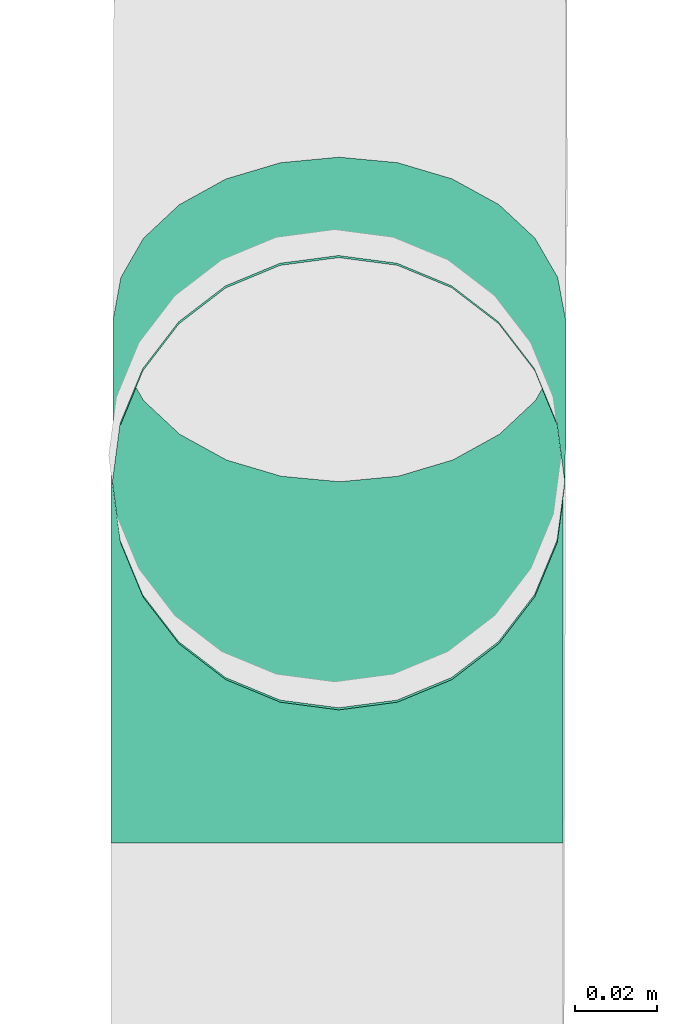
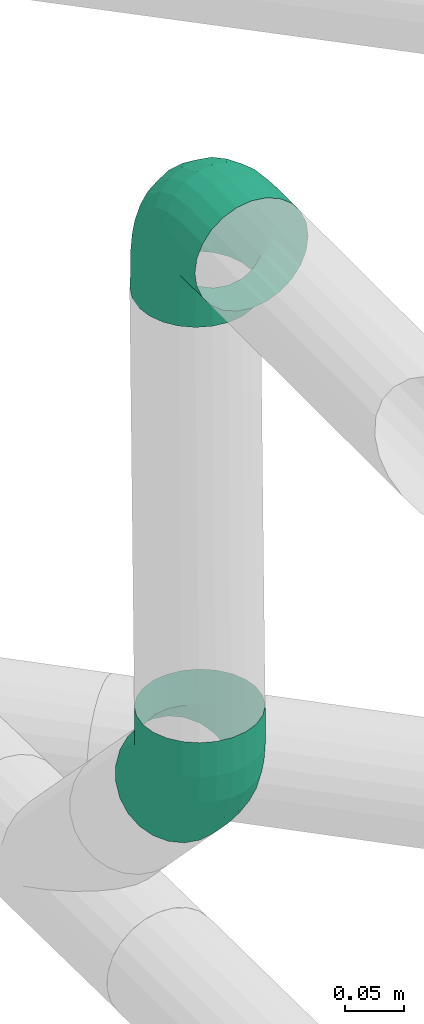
# One storey, part 173 of 374: 2 flow fittings.
"""IFC2X3 building model written with IfcOpenShell, lengths in metres."""

from ifc_helpers import new_model, si_unit, direction, origin, place, context, subcontext, project, spatial, open_shell, surface_model, source, transform, mapped, element, save


model = new_model("IFC2X3")

# Units and contexts
model_context = context("Model", 3, precision=1e-05, world=origin(), true_north=direction((-0.4480736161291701, 0.8939966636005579)))
body_context = subcontext(model_context, "Body", "Model", "MODEL_VIEW")
ifc_project = project(units=[si_unit("LENGTHUNIT", "METRE"), si_unit("AREAUNIT", "SQUARE_METRE"), si_unit("VOLUMEUNIT", "CUBIC_METRE"), si_unit("PLANEANGLEUNIT", "RADIAN"), si_unit("THERMODYNAMICTEMPERATUREUNIT", "KELVIN"), si_unit("MASSUNIT", "GRAM", prefix="KILO"), si_unit("TIMEUNIT", "SECOND")], contexts=[model_context])

# Site, building, storey
site_placement = place(None, origin())
site = spatial("IfcSite", under=ifc_project, at=site_placement, Name="Site 1", CompositionType="ELEMENT")
building_placement = place(site_placement, origin())
building = spatial("IfcBuilding", under=site, at=building_placement, Name="Undefined", CompositionType="ELEMENT")
storey_placement = place(building_placement, origin())
storey = spatial("IfcBuildingStorey", under=building, at=storey_placement, Name="Rez de chauss\x8ee", CompositionType="ELEMENT", Elevation=0.0)

# Flow fittings
shared_shape_1 = source(origin(), body_context, "Body", "SurfaceModel", [
    surface_model("IfcFaceBasedSurfaceModel", [(0.0, 0.014357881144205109, -3.552713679e-15), (0.0, 0.0, 0.0), (0.03869999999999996, -7.105427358e-15, 7.105427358e-15), (0.03869999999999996, 0.014357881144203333, 7.105427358e-15), (0.0, -0.01386864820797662, -0.0037160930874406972), (0.03869999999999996, -0.013868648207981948, -0.003716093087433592), (0.0, -0.026302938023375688, -0.010895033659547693), (0.03869999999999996, -0.02630293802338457, -0.010895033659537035), (0.0, -0.03645549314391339, -0.021047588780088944), (0.03869999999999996, -0.03645549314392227, -0.02104758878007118), (0.0, -0.04363443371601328, -0.033481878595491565), (0.03869999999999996, -0.043634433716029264, -0.033481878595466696), (0.0, -0.04735052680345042, -0.04735052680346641), (0.03869999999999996, -0.047350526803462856, -0.04735052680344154), (0.0, -0.04735052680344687, -0.06170840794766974), (0.03869999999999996, -0.047350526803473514, -0.061708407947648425), (0.0, -0.04363443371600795, -0.07557705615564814), (0.03869999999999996, -0.043634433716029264, -0.07557705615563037), (0.0, -0.03645549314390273, -0.08801134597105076), (0.03869999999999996, -0.03645549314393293, -0.088011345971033), (0.0, -0.026302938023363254, -0.0981639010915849), (0.03869999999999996, -0.02630293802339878, -0.09816390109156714), (0.0, -0.013868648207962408, -0.1053428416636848), (0.03869999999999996, -0.013868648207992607, -0.10534284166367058), (0.0, 1.5987211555e-14, -0.10905893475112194), (0.03869999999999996, -1.4210854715e-14, -0.10905893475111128), (0.0, 0.014357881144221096, -0.10905893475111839), (0.03869999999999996, 0.01435788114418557, -0.10905893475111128), (0.0, 0.028226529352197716, -0.10534284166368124), (0.03869999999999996, 0.028226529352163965, -0.10534284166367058), (0.0, 0.040660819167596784, -0.0981639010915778), (0.03869999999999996, 0.040660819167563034, -0.09816390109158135), (0.0, 0.05081337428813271, -0.08801134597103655), (0.03869999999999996, 0.050813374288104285, -0.088011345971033), (0.0, 0.05799231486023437, -0.07557705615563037), (0.03869999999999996, 0.05799231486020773, -0.07557705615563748), (0.0, 0.06170840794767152, -0.06170840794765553), (0.03869999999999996, 0.06170840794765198, -0.061708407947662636), (0.0, 0.061708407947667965, -0.0473505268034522), (0.03869999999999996, 0.06170840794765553, -0.047350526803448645), (0.0, 0.05799231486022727, -0.033481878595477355), (0.03869999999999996, 0.05799231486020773, -0.03348187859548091), (0.0, 0.050813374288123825, -0.021047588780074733), (0.03869999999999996, 0.05081337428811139, -0.02104758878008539), (0.0, 0.04066081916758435, -0.010895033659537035), (0.03869999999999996, 0.040660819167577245, -0.01089503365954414), (0.0, 0.028226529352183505, -0.0037160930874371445), (0.03869999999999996, 0.028226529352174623, -0.0037160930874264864), (0.06642387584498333, -0.04376678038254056, -0.06218021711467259), (0.06690439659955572, -0.043704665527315, -0.04783051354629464), (0.09229412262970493, -0.033255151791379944, -0.06356409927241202), (0.09322303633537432, -0.03301084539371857, -0.04923838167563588), (0.11458104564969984, -0.01651845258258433, -0.06576752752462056), (0.11589624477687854, -0.015984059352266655, -0.051480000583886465), (0.1317945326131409, 0.0053242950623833, -0.06864317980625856), (0.13340808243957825, 0.006237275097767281, -0.05440549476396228), (0.1427836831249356, 0.03081267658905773, -0.07199878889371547), (0.14458770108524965, 0.03216743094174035, -0.05781926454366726), (0.14681375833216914, 0.05824252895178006, -0.07560999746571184), (0.14868762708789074, 0.060072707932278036, -0.06149306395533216), (0.06501506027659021, -0.040232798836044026, -0.07602488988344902), (0.08957068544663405, -0.030255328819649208, -0.07733844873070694), (0.11072507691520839, -0.014369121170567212, -0.07942990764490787), (0.12706384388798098, 0.0063636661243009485, -0.08215943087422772), (0.1374945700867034, 0.03055683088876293, -0.08534452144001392), (0.14131985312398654, 0.05659280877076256, -0.08877222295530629), (0.06277395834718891, -0.03334355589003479, -0.0884210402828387), (0.08523832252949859, -0.02421580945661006, -0.08962273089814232), (0.1045911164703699, -0.009682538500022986, -0.09153607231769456), (0.11953840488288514, 0.009284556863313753, -0.0940331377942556), (0.1290808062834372, 0.03141732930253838, -0.09694697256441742), (0.13258031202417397, 0.05523597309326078, -0.10008275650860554), (0.05985329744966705, -0.023568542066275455, -0.09852389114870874), (0.07959227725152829, -0.015548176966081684, -0.0995797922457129), (0.09659718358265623, -0.002778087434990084, -0.10126100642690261), (0.1097310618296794, 0.01388791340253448, -0.10345512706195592), (0.11811577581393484, 0.0333355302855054, -0.10601545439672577), (0.12119072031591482, 0.054264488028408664, -0.10877080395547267), (0.05645211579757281, -0.011573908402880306, -0.10564494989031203), (0.07301731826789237, -0.004843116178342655, -0.10653107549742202), (0.08728805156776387, 0.005873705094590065, -0.10794197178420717), (0.09831016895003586, 0.019860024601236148, -0.10978330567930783), (0.10534672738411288, 0.036180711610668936, -0.11193196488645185), (0.10792725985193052, 0.053744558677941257, -0.114244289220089), (0.052802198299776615, 0.0018229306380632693, -0.10929892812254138), (0.06596151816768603, 0.007169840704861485, -0.11000286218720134), (0.0772981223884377, 0.015683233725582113, -0.11112367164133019), (0.08605404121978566, 0.026793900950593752, -0.1125864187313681), (0.09164385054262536, 0.03975897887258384, -0.11429330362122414), (0.09369381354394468, 0.05371161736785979, -0.11613020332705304), (0.049152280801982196, 0.01570900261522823, -0.10923681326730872), (0.05890571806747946, 0.019672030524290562, -0.10975855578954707), (0.06730819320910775, 0.025981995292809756, -0.11058927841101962), (0.07379791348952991, 0.034217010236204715, -0.11167343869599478), (0.07794097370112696, 0.04382647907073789, -0.11293854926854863), (0.07946036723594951, 0.0541679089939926, -0.11430002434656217), (0.04575109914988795, 0.02913799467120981, -0.10546283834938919), (0.05233075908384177, 0.03181144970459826, -0.10581480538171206), (0.057999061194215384, 0.036068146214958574, -0.10637521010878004), (0.06237702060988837, 0.041623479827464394, -0.10710658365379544), (0.06517192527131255, 0.04810601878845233, -0.10796002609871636), (0.0661969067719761, 0.05508233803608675, -0.10887847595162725), (0.0428304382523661, 0.04119474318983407, -0.09823419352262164), (0.04668471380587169, 0.04276081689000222, -0.09844037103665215), (0.05000512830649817, 0.0452543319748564, -0.0987686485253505), (0.05256967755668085, 0.04850857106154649, -0.09919707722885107), (0.054206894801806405, 0.052305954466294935, -0.09969701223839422), (0.05480731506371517, 0.05639258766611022, -0.1002350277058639), (0.04058933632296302, 0.051057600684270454, -0.08804349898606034), (0.04235235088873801, 0.05177395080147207, -0.08813780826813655), (0.043871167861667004, 0.05291452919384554, -0.08828796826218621), (0.04504423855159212, 0.05440307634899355, -0.08848393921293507), (0.04579313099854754, 0.056140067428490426, -0.08871261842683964), (0.04606777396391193, 0.058009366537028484, -0.08895871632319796), (0.03918052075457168, 0.05805442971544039, -0.07558523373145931), (0.039628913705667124, 0.05823662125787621, -0.07560921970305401), (0.040015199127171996, 0.0585267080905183, -0.07564741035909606), (0.040313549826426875, 0.05890529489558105, -0.07569725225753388), (0.040504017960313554, 0.05934706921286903, -0.07575541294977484), (0.04057386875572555, 0.05982249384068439, -0.07581800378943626), (0.03918052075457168, 0.06177052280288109, -0.04735870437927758), (0.039628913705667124, 0.06195271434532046, -0.047382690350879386), (0.040015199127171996, 0.0622428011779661, -0.047420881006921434), (0.040313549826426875, 0.06262138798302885, -0.04747072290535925), (0.040504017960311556, 0.06306316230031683, -0.04752888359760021), (0.040573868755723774, 0.06353858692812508, -0.04759147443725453), (0.0405893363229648, 0.058236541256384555, -0.033514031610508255), (0.04235235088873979, 0.05895289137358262, -0.03360834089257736), (0.043871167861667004, 0.06009346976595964, -0.033758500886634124), (0.04504423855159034, 0.06158201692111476, -0.03395447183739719), (0.04579313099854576, 0.06331900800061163, -0.03418315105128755), (0.04606777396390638, 0.06518830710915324, -0.03442924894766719), (0.0428304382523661, 0.05134729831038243, -0.021117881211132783), (0.04668471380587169, 0.052913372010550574, -0.021324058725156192), (0.05000512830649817, 0.055406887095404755, -0.02165233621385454), (0.05256967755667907, 0.05866112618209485, -0.02208076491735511), (0.054206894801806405, 0.06245850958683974, -0.022580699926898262), (0.05480731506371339, 0.06654514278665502, -0.02311871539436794), (0.04575109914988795, 0.041572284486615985, -0.011015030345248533), (0.05233075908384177, 0.04424573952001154, -0.01136699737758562), (0.057999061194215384, 0.0485024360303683, -0.01192740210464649), (0.06237702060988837, 0.054057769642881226, -0.012658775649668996), (0.06517192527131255, 0.06054030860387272, -0.013512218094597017), (0.0661969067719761, 0.06751662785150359, -0.014430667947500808), (0.049152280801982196, 0.029577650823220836, -0.0038939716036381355), (0.058905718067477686, 0.03354067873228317, -0.0044157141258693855), (0.06730819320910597, 0.03985064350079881, -0.0052464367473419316), (0.07379791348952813, 0.048085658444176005, -0.006330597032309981), (0.07794097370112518, 0.05769512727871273, -0.007595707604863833), (0.07946036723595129, 0.06803655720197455, -0.008957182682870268), (0.052802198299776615, 0.01618081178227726, -0.00023999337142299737), (0.06596151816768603, 0.02152772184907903, -0.000943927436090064), (0.07729812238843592, 0.030041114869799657, -0.0020647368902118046), (0.08605404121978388, 0.04115178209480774, -0.0035274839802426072), (0.09164385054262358, 0.05411686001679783, -0.005234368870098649), (0.09369381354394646, 0.06806949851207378, -0.007071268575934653), (0.056452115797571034, 0.0022947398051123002, -0.0003021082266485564), (0.07301731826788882, 0.0090255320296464, -0.0011882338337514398), (0.08728805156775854, 0.01974235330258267, -0.002599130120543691), (0.09831016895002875, 0.03372867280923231, -0.004440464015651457), (0.10534672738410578, 0.05004935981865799, -0.006589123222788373), (0.10792725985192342, 0.0676132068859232, -0.008901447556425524), (0.05985329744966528, -0.011134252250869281, -0.004076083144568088), (0.07959227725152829, -0.0031138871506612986, -0.005131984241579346), (0.09659718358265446, 0.009656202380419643, -0.006813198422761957), (0.1097310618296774, 0.026322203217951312, -0.009007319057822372), (0.11811577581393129, 0.045769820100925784, -0.011567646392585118), (0.12119072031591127, 0.06669877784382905, -0.014322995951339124), (0.06277395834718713, -0.023191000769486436, -0.011304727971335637), (0.08523832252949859, -0.01406325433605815, -0.012506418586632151), (0.10459111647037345, 0.00047001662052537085, -0.014419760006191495), (0.11953840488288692, 0.019437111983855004, -0.01691682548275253), (0.12908080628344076, 0.041569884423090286, -0.019830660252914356), (0.13258031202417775, 0.06538852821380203, -0.022966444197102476), (0.06501506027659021, -0.033053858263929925, -0.021495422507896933), (0.08957068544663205, -0.02307638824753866, -0.022808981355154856), (0.11072507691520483, -0.007190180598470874, -0.024900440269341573), (0.1270638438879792, 0.013542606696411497, -0.027629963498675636), (0.1374945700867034, 0.03773577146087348, -0.030815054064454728), (0.14131985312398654, 0.063771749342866, -0.0342427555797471), (0.06642387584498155, -0.04005068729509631, -0.033953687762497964), (0.09229412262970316, -0.02953905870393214, -0.035337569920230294), (0.11458104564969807, -0.012802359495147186, -0.03754099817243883), (0.1317945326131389, 0.009040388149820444, -0.040416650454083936), (0.14278368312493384, 0.03452876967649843, -0.04377225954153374), (0.14681375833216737, 0.061958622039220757, -0.04738346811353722), (0.14739419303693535, 0.09660712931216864, -0.08066079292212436), (0.14926806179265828, 0.09843730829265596, -0.06654385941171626), (0.1419002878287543, 0.09495740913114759, -0.0938230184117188), (0.1331607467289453, 0.09360057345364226, -0.10513355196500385), (0.1217711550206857, 0.09262908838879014, -0.11382159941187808), (0.10850769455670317, 0.09210915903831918, -0.11929508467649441), (0.09427424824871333, 0.09207621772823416, -0.12118099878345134), (0.0800408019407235, 0.09253250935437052, -0.11935081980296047), (0.06677734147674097, 0.09344693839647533, -0.11392927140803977), (0.055387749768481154, 0.09475718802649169, -0.10528582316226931), (0.046648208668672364, 0.09637396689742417, -0.09400951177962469), (0.041154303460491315, 0.09818709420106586, -0.08086879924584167), (0.039280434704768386, 0.10007300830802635, -0.06675920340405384), (0.041154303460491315, 0.10190318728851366, -0.05264226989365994), (0.046648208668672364, 0.10355290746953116, -0.039480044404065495), (0.055387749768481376, 0.10490974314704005, -0.02816951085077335), (0.06677734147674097, 0.10588122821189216, -0.019481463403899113), (0.0800408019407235, 0.10640115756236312, -0.014007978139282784), (0.09427424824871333, 0.10643409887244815, -0.012122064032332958), (0.10850769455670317, 0.10597780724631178, -0.013952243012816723), (0.1217711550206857, 0.10506337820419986, -0.01937379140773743), (0.1331607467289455, 0.10375312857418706, -0.02801723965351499), (0.1419002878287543, 0.10213634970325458, -0.03929355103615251), (0.14739419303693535, 0.10032322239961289, -0.05243426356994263)], [open_shell([[[0, 1, 2, 3]], [[1, 4, 5, 2]], [[4, 6, 7, 5]], [[6, 8, 9, 7]], [[8, 10, 11, 9]], [[10, 12, 13, 11]], [[12, 14, 15, 13]], [[14, 16, 17, 15]], [[16, 18, 19, 17]], [[18, 20, 21, 19]], [[20, 22, 23, 21]], [[22, 24, 25, 23]], [[24, 26, 27, 25]], [[26, 28, 29, 27]], [[28, 30, 31, 29]], [[30, 32, 33, 31]], [[32, 34, 35, 33]], [[34, 36, 37, 35]], [[36, 38, 39, 37]], [[38, 40, 41, 39]], [[40, 42, 43, 41]], [[42, 44, 45, 43]], [[44, 46, 47, 45]], [[46, 0, 3, 47]], [[13, 15, 48, 49]], [[49, 48, 50, 51]], [[51, 50, 52, 53]], [[53, 52, 54, 55]], [[55, 54, 56, 57]], [[57, 56, 58, 59]], [[15, 17, 60, 48]], [[48, 60, 61, 50]], [[50, 61, 62, 52]], [[52, 62, 63, 54]], [[54, 63, 64, 56]], [[56, 64, 65, 58]], [[17, 19, 66, 60]], [[60, 66, 67, 61]], [[61, 67, 68, 62]], [[62, 68, 69, 63]], [[63, 69, 70, 64]], [[64, 70, 71, 65]], [[19, 21, 72, 66]], [[66, 72, 73, 67]], [[67, 73, 74, 68]], [[68, 74, 75, 69]], [[69, 75, 76, 70]], [[70, 76, 77, 71]], [[21, 23, 78, 72]], [[72, 78, 79, 73]], [[73, 79, 80, 74]], [[74, 80, 81, 75]], [[75, 81, 82, 76]], [[76, 82, 83, 77]], [[23, 25, 84, 78]], [[78, 84, 85, 79]], [[79, 85, 86, 80]], [[80, 86, 87, 81]], [[81, 87, 88, 82]], [[82, 88, 89, 83]], [[25, 27, 90, 84]], [[84, 90, 91, 85]], [[85, 91, 92, 86]], [[86, 92, 93, 87]], [[87, 93, 94, 88]], [[88, 94, 95, 89]], [[27, 29, 96, 90]], [[90, 96, 97, 91]], [[91, 97, 98, 92]], [[92, 98, 99, 93]], [[93, 99, 100, 94]], [[94, 100, 101, 95]], [[29, 31, 102, 96]], [[96, 102, 103, 97]], [[97, 103, 104, 98]], [[98, 104, 105, 99]], [[99, 105, 106, 100]], [[100, 106, 107, 101]], [[31, 33, 108, 102]], [[102, 108, 109, 103]], [[103, 109, 110, 104]], [[104, 110, 111, 105]], [[105, 111, 112, 106]], [[106, 112, 113, 107]], [[33, 35, 114, 108]], [[108, 114, 115, 109]], [[109, 115, 116, 110]], [[110, 116, 117, 111]], [[111, 117, 118, 112]], [[112, 118, 119, 113]], [[35, 37, 114]], [[114, 37, 115]], [[115, 37, 116]], [[116, 37, 117]], [[117, 37, 118]], [[118, 37, 119]], [[37, 39, 120]], [[37, 120, 121]], [[37, 121, 122]], [[37, 122, 123]], [[37, 123, 124]], [[37, 124, 125]], [[39, 41, 126, 120]], [[120, 126, 127, 121]], [[121, 127, 128, 122]], [[122, 128, 129, 123]], [[123, 129, 130, 124]], [[124, 130, 131, 125]], [[41, 43, 132, 126]], [[126, 132, 133, 127]], [[127, 133, 134, 128]], [[128, 134, 135, 129]], [[129, 135, 136, 130]], [[130, 136, 137, 131]], [[43, 45, 138, 132]], [[132, 138, 139, 133]], [[133, 139, 140, 134]], [[134, 140, 141, 135]], [[135, 141, 142, 136]], [[136, 142, 143, 137]], [[45, 47, 144, 138]], [[138, 144, 145, 139]], [[139, 145, 146, 140]], [[140, 146, 147, 141]], [[141, 147, 148, 142]], [[142, 148, 149, 143]], [[47, 3, 150, 144]], [[144, 150, 151, 145]], [[145, 151, 152, 146]], [[146, 152, 153, 147]], [[147, 153, 154, 148]], [[148, 154, 155, 149]], [[3, 2, 156, 150]], [[150, 156, 157, 151]], [[151, 157, 158, 152]], [[152, 158, 159, 153]], [[153, 159, 160, 154]], [[154, 160, 161, 155]], [[2, 5, 162, 156]], [[156, 162, 163, 157]], [[157, 163, 164, 158]], [[158, 164, 165, 159]], [[159, 165, 166, 160]], [[160, 166, 167, 161]], [[5, 7, 168, 162]], [[162, 168, 169, 163]], [[163, 169, 170, 164]], [[164, 170, 171, 165]], [[165, 171, 172, 166]], [[166, 172, 173, 167]], [[7, 9, 174, 168]], [[168, 174, 175, 169]], [[169, 175, 176, 170]], [[170, 176, 177, 171]], [[171, 177, 178, 172]], [[172, 178, 179, 173]], [[9, 11, 180, 174]], [[174, 180, 181, 175]], [[175, 181, 182, 176]], [[176, 182, 183, 177]], [[177, 183, 184, 178]], [[178, 184, 185, 179]], [[11, 13, 49, 180]], [[180, 49, 51, 181]], [[181, 51, 53, 182]], [[182, 53, 55, 183]], [[183, 55, 57, 184]], [[184, 57, 59, 185]], [[59, 58, 186, 187]], [[58, 65, 188, 186]], [[65, 71, 189, 188]], [[71, 77, 190, 189]], [[77, 83, 191, 190]], [[83, 89, 192, 191]], [[89, 95, 193, 192]], [[95, 101, 194, 193]], [[101, 107, 195, 194]], [[107, 113, 196, 195]], [[113, 119, 197, 196]], [[119, 37, 198, 197]], [[37, 125, 199, 198]], [[125, 131, 200, 199]], [[131, 137, 201, 200]], [[137, 143, 202, 201]], [[143, 149, 203, 202]], [[149, 155, 204, 203]], [[155, 161, 205, 204]], [[161, 167, 206, 205]], [[167, 173, 207, 206]], [[173, 179, 208, 207]], [[179, 185, 209, 208]], [[185, 59, 187, 209]]])]),
])
flow_fitting_1_placement = place(storey_placement, origin())
element("IfcFlowFitting", 1, at=flow_fitting_1_placement, inside=storey, Name="PE-HD équerre de raccordement 88.5°", ObjectType="PE-HD équerre de raccordement 88.5°", context=body_context, shape_type="MappedRepresentation", body=[
    mapped(shared_shape_1, transform((57.0208740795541, 14.31684562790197, -0.3722077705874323), x_axis=(0.0, 1.0, 0.0), y_axis=(-0.13052619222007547, 0.0, -0.9914448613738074), z_axis=(-0.9914448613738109, 0.0, 0.1305261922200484))),
])
shared_shape_2 = source(origin(), body_context, "Body", "SurfaceModel", [
    surface_model("IfcFaceBasedSurfaceModel", [(0.0, 0.014357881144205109, -3.552713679e-15), (0.0, 0.0, 0.0), (0.03509999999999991, 1.776356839e-15, -1.776356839e-15), (0.03509999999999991, 0.014357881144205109, 0.0), (0.0, -0.01386864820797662, -0.0037160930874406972), (0.035100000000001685, -0.01386864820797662, -0.003716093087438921), (0.0, -0.026302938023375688, -0.010895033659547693), (0.03509999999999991, -0.026302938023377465, -0.010895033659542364), (0.0, -0.03645549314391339, -0.021047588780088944), (0.035100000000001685, -0.03645549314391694, -0.021047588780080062), (0.0, -0.04363443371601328, -0.033481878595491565), (0.035100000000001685, -0.043634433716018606, -0.03348187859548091), (0.0, -0.04735052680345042, -0.04735052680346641), (0.03510000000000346, -0.04735052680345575, -0.04735052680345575), (0.0, -0.04735052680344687, -0.06170840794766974), (0.035100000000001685, -0.047350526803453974, -0.061708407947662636), (0.0, -0.04363443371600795, -0.07557705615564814), (0.035100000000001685, -0.04363443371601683, -0.07557705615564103), (0.0, -0.03645549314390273, -0.08801134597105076), (0.035100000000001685, -0.03645549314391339, -0.08801134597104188), (0.0, -0.026302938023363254, -0.0981639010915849), (0.03510000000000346, -0.026302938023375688, -0.09816390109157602), (0.0, -0.013868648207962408, -0.1053428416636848), (0.03510000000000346, -0.013868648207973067, -0.10534284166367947), (0.0, 1.5987211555e-14, -0.10905893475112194), (0.03510000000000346, 5.329070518e-15, -0.10905893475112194), (0.0, 0.014357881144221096, -0.10905893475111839), (0.035100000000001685, 0.014357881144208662, -0.10905893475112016), (0.0, 0.028226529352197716, -0.10534284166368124), (0.03510000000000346, 0.02822652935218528, -0.10534284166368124), (0.0, 0.040660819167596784, -0.0981639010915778), (0.03510000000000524, 0.040660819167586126, -0.09816390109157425), (0.0, 0.05081337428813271, -0.08801134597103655), (0.035100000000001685, 0.050813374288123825, -0.08801134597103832), (0.0, 0.05799231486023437, -0.07557705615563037), (0.035100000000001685, 0.05799231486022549, -0.07557705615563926), (0.0, 0.06170840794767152, -0.06170840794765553), (0.035100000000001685, 0.06170840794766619, -0.06170840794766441), (0.0, 0.061708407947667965, -0.0473505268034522), (0.035100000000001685, 0.061708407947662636, -0.0473505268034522), (0.0, 0.05799231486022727, -0.033481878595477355), (0.03510000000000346, 0.057992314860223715, -0.033481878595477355), (0.0, 0.050813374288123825, -0.021047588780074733), (0.035100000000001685, 0.05081337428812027, -0.021047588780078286), (0.0, 0.04066081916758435, -0.010895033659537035), (0.035100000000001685, 0.040660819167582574, -0.010895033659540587), (0.0, 0.028226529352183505, -0.0037160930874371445), (0.035100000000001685, 0.028226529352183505, -0.003716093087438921), (0.06308180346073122, -0.04369860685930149, -0.0621891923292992), (0.06356679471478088, -0.043635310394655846, -0.047839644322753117), (0.08915714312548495, -0.03299166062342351, -0.06359878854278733), (0.09009408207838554, -0.03274278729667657, -0.04927367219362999), (0.111549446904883, -0.015959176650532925, -0.0658411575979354), (0.11287449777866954, -0.015415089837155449, -0.05155490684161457), (0.06165988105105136, -0.040168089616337, -0.07603340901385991), (0.086410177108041, -0.03000522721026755, -0.07737137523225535), (0.10766459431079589, -0.013838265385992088, -0.07949979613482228), (0.05939792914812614, -0.033284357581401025, -0.0884288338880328), (0.08204038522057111, -0.023987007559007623, -0.08965285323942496), (0.10148468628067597, -0.009196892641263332, -0.09160000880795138), (0.05645009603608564, -0.02351652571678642, -0.09853073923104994), (0.07634556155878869, -0.015347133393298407, -0.09960626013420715), (0.0934308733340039, -0.0023513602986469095, -0.10131718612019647), (0.05301727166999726, -0.011530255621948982, -0.10565069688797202), (0.06971379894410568, -0.004674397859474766, -0.10655328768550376), (0.08405200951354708, 0.006231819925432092, -0.10798911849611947), (0.04933339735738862, 0.0018576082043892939, -0.10930349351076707), (0.06259704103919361, 0.007303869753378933, -0.11002050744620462), (0.07398724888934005, 0.015967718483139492, -0.1111611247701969), (0.04564952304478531, 0.015734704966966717, -0.10924019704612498), (0.0554802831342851, 0.01977137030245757, -0.10977163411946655), (0.06392248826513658, 0.026192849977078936, -0.1106170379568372), (0.04221669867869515, 0.02915533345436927, -0.1054651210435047), (0.04884852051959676, 0.03187846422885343, -0.10582362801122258), (0.054543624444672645, 0.03621038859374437, -0.10639393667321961), (0.039268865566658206, 0.04120490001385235, -0.09823553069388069), (0.043153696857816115, 0.04280007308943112, -0.09844553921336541), (0.0464898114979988, 0.04533765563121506, -0.09877961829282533), (0.03700691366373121, 0.051062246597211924, -0.08804411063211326), (0.03878390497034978, 0.05179190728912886, -0.08814017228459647), (0.040309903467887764, 0.052952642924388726, -0.08829298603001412), (0.03558499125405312, 0.05805561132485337, -0.07558538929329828), (0.03603693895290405, 0.05824118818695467, -0.0756098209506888), (0.03642505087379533, 0.0585364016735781, -0.07564868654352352), (0.035584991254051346, 0.06177170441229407, -0.04735885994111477), (0.036036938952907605, 0.061957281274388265, -0.047383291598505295), (0.036425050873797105, 0.06225249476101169, -0.04742215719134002), (0.037006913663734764, 0.05824118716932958, -0.03351464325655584), (0.038783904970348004, 0.058970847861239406, -0.033610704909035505), (0.040309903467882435, 0.060131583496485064, -0.03376351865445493), (0.039268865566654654, 0.051357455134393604, -0.021119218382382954), (0.04315369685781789, 0.05295262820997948, -0.02132922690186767), (0.04648981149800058, 0.0554902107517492, -0.02166330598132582), (0.04221669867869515, 0.04158962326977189, -0.011017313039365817), (0.048848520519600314, 0.044312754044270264, -0.01137582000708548), (0.05454362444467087, 0.048644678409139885, -0.011946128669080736), (0.04564952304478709, 0.02960335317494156, -0.0038973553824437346), (0.0554802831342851, 0.03364001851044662, -0.004428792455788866), (0.06392248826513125, 0.04006149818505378, -0.005274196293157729), (0.049333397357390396, 0.016215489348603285, -0.00024455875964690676), (0.06259704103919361, 0.02166175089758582, -0.0009615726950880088), (0.07398724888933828, 0.030325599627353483, -0.0021021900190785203), (0.05301727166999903, 0.002338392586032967, -0.00030785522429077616), (0.06971379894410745, 0.009194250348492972, -0.0012104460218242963), (0.08405200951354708, 0.02010046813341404, -0.0026462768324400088), (0.05645009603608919, -0.011082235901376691, -0.004082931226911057), (0.07634556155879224, -0.002912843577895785, -0.0051584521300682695), (0.09343087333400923, 0.010082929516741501, -0.006869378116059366), (0.05939792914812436, -0.023131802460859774, -0.011312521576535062), (0.08204038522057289, -0.013834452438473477, -0.01253654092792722), (0.10148468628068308, 0.0009556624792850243, -0.014483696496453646), (0.06165988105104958, -0.03298914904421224, -0.021503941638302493), (0.08641017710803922, -0.022826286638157, -0.022841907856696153), (0.10766459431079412, -0.006659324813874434, -0.02497032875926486), (0.06308180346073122, -0.0399825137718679, -0.0339626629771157), (0.08915714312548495, -0.02927556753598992, -0.03537225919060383), (0.11154944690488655, -0.012243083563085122, -0.03761462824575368), (0.13637120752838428, 0.008645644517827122, -0.06908044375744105), (0.13769625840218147, 0.009189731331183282, -0.054794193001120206), (0.13248635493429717, 0.010766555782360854, -0.08273908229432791), (0.12630644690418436, 0.015407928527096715, -0.09483929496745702), (0.11825263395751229, 0.022253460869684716, -0.10455647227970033), (0.10887377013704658, 0.030836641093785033, -0.11122840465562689), (0.09880900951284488, 0.04057253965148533, -0.11440041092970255), (0.08874424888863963, 0.05079767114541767, -0.11385632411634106), (0.0793653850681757, 0.060815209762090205, -0.10963322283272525), (0.07131157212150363, 0.069942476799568, -0.10201890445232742), (0.06513166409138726, 0.07755746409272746, -0.09153227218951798), (0.061246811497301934, 0.08314122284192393, -0.07888797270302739), (0.05992176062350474, 0.08631322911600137, -0.06494769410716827), (0.06124681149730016, 0.08685731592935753, -0.05066144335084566), (0.06513166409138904, 0.0847364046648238, -0.03700280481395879), (0.07131157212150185, 0.08009503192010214, -0.02490259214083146), (0.07936538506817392, 0.07324949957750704, -0.015185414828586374), (0.08874424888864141, 0.06466631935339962, -0.008513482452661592), (0.09880900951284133, 0.05493042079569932, -0.005341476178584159), (0.10887377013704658, 0.04470528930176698, -0.005885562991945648), (0.11825263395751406, 0.03468775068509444, -0.010108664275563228), (0.12630644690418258, 0.02556048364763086, -0.01772298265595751), (0.13248635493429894, 0.017945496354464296, -0.028209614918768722), (0.13637120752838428, 0.01236173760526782, -0.04085391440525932)], [open_shell([[[0, 1, 2, 3]], [[1, 4, 5, 2]], [[4, 6, 7, 5]], [[6, 8, 9, 7]], [[8, 10, 11, 9]], [[10, 12, 13, 11]], [[12, 14, 15, 13]], [[14, 16, 17, 15]], [[16, 18, 19, 17]], [[18, 20, 21, 19]], [[20, 22, 23, 21]], [[22, 24, 25, 23]], [[24, 26, 27, 25]], [[26, 28, 29, 27]], [[28, 30, 31, 29]], [[30, 32, 33, 31]], [[32, 34, 35, 33]], [[34, 36, 37, 35]], [[36, 38, 39, 37]], [[38, 40, 41, 39]], [[40, 42, 43, 41]], [[42, 44, 45, 43]], [[44, 46, 47, 45]], [[46, 0, 3, 47]], [[13, 15, 48, 49]], [[49, 48, 50, 51]], [[51, 50, 52, 53]], [[15, 17, 54, 48]], [[48, 54, 55, 50]], [[50, 55, 56, 52]], [[17, 19, 57, 54]], [[54, 57, 58, 55]], [[55, 58, 59, 56]], [[19, 21, 60, 57]], [[57, 60, 61, 58]], [[58, 61, 62, 59]], [[21, 23, 63, 60]], [[60, 63, 64, 61]], [[61, 64, 65, 62]], [[23, 25, 66, 63]], [[63, 66, 67, 64]], [[64, 67, 68, 65]], [[25, 27, 69, 66]], [[66, 69, 70, 67]], [[67, 70, 71, 68]], [[27, 29, 72, 69]], [[69, 72, 73, 70]], [[70, 73, 74, 71]], [[29, 31, 75, 72]], [[72, 75, 76, 73]], [[73, 76, 77, 74]], [[31, 33, 78, 75]], [[75, 78, 79, 76]], [[76, 79, 80, 77]], [[33, 35, 81, 78]], [[78, 81, 82, 79]], [[79, 82, 83, 80]], [[35, 37, 81]], [[81, 37, 82]], [[82, 37, 83]], [[37, 39, 84]], [[37, 84, 85]], [[37, 85, 86]], [[39, 41, 87, 84]], [[84, 87, 88, 85]], [[85, 88, 89, 86]], [[41, 43, 90, 87]], [[87, 90, 91, 88]], [[88, 91, 92, 89]], [[43, 45, 93, 90]], [[90, 93, 94, 91]], [[91, 94, 95, 92]], [[45, 47, 96, 93]], [[93, 96, 97, 94]], [[94, 97, 98, 95]], [[47, 3, 99, 96]], [[96, 99, 100, 97]], [[97, 100, 101, 98]], [[3, 2, 102, 99]], [[99, 102, 103, 100]], [[100, 103, 104, 101]], [[2, 5, 105, 102]], [[102, 105, 106, 103]], [[103, 106, 107, 104]], [[5, 7, 108, 105]], [[105, 108, 109, 106]], [[106, 109, 110, 107]], [[7, 9, 111, 108]], [[108, 111, 112, 109]], [[109, 112, 113, 110]], [[9, 11, 114, 111]], [[111, 114, 115, 112]], [[112, 115, 116, 113]], [[11, 13, 49, 114]], [[114, 49, 51, 115]], [[115, 51, 53, 116]], [[53, 52, 117, 118]], [[52, 56, 119, 117]], [[56, 59, 120, 119]], [[59, 62, 121, 120]], [[62, 65, 122, 121]], [[65, 68, 123, 122]], [[68, 71, 124, 123]], [[71, 74, 125, 124]], [[74, 77, 126, 125]], [[77, 80, 127, 126]], [[80, 83, 128, 127]], [[83, 37, 129, 128]], [[37, 86, 130, 129]], [[86, 89, 131, 130]], [[89, 92, 132, 131]], [[92, 95, 133, 132]], [[95, 98, 134, 133]], [[98, 101, 135, 134]], [[101, 104, 136, 135]], [[104, 107, 137, 136]], [[107, 110, 138, 137]], [[110, 113, 139, 138]], [[113, 116, 140, 139]], [[116, 53, 118, 140]]])]),
])
flow_fitting_2_placement = place(storey_placement, origin())
element("IfcFlowFitting", 2, at=flow_fitting_2_placement, inside=storey, Name="PE-HD coude 45°", ObjectType="PE-HD coude 45°", context=body_context, shape_type="MappedRepresentation", body=[
    mapped(shared_shape_2, transform((57.0214561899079, 14.433901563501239, -1.0124203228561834), x_axis=(-0.0012568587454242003, -0.6964258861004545, 0.717627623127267), y_axis=(-0.1323077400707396, 0.7114350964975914, 0.6901845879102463), z_axis=(-0.9912078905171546, -0.09408022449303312, -0.09303670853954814))),
])

save(model, "model.ifc")
